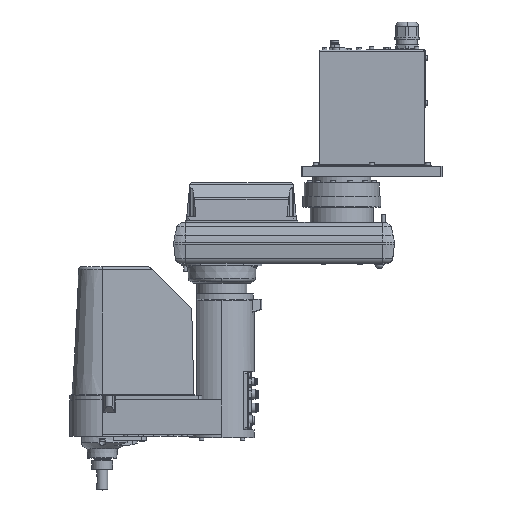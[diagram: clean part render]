
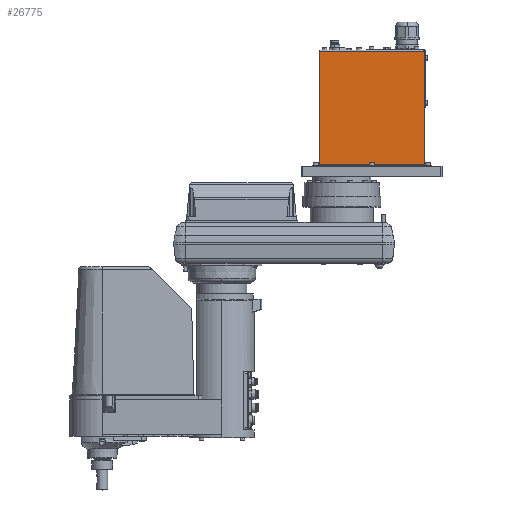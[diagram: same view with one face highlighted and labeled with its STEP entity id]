
A CAD part, top view. The second image highlights one B-rep face of the part: STEP entity #26775.
In plain terms, the highlighted planar face has unit normal (0, 0, 1).
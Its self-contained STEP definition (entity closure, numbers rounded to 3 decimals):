
#11335 = VERTEX_POINT( '', #30622 );
#11795 = VERTEX_POINT( '', #31136 );
#15561 = VERTEX_POINT( '', #35335 );
#16389 = EDGE_CURVE( '', #23881, #11335, #36257, .T. );
#17125 = EDGE_CURVE( '', #15561, #23881, #37060, .T. );
#18243 = EDGE_CURVE( '', #11795, #11335, #38300, .T. );
#22927 = EDGE_CURVE( '', #11795, #15561, #43540, .T. );
#23881 = VERTEX_POINT( '', #44588 );
#26775 = ADVANCED_FACE( '', ( #47798 ), #47799, .F. );
#30622 = CARTESIAN_POINT( '', ( 121., 2., 60. ) );
#31136 = CARTESIAN_POINT( '', ( -33., 2., 60. ) );
#35335 = CARTESIAN_POINT( '', ( -33., 168., 60. ) );
#36257 = LINE( '', #60529, #60530 );
#37060 = LINE( '', #61633, #61634 );
#38300 = LINE( '', #63368, #63369 );
#43540 = LINE( '', #70625, #70626 );
#44588 = CARTESIAN_POINT( '', ( 121., 168., 60. ) );
#47798 = FACE_OUTER_BOUND( '', #76626, .T. );
#47799 = PLANE( '', #76627 );
#60529 = CARTESIAN_POINT( '', ( 121., 85., 60. ) );
#60530 = VECTOR( '', #88617, 1. );
#61633 = CARTESIAN_POINT( '', ( -33.4, 168., 60. ) );
#61634 = VECTOR( '', #89503, 1. );
#63368 = CARTESIAN_POINT( '', ( -33.4, 2., 60. ) );
#63369 = VECTOR( '', #90954, 1. );
#70625 = CARTESIAN_POINT( '', ( -33., 168., 60. ) );
#70626 = VECTOR( '', #97245, 1. );
#76626 = EDGE_LOOP( '', ( #102190, #102191, #102192, #102193 ) );
#76627 = AXIS2_PLACEMENT_3D( '', #102194, #102195, #102196 );
#88617 = DIRECTION( '', ( 0., -1., 0. ) );
#89503 = DIRECTION( '', ( 1., 0., 0. ) );
#90954 = DIRECTION( '', ( 1., 0., 0. ) );
#97245 = DIRECTION( '', ( 0., 1., 0. ) );
#102190 = ORIENTED_EDGE( '', *, *, #16389, .F. );
#102191 = ORIENTED_EDGE( '', *, *, #17125, .F. );
#102192 = ORIENTED_EDGE( '', *, *, #22927, .F. );
#102193 = ORIENTED_EDGE( '', *, *, #18243, .T. );
#102194 = CARTESIAN_POINT( '', ( -33.4, 168., 60. ) );
#102195 = DIRECTION( '', ( 0., 0., -1. ) );
#102196 = DIRECTION( '', ( 0., 1., 0. ) );
